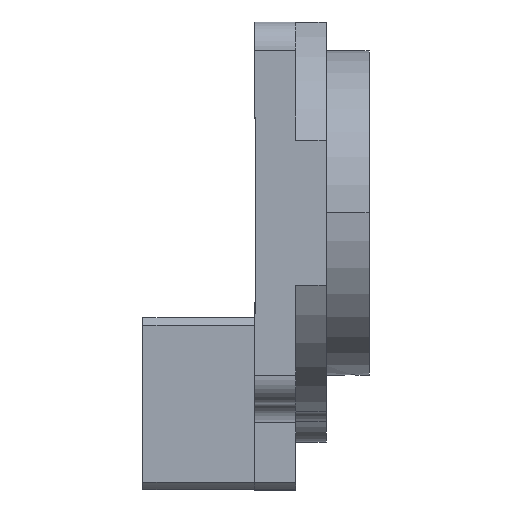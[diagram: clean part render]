
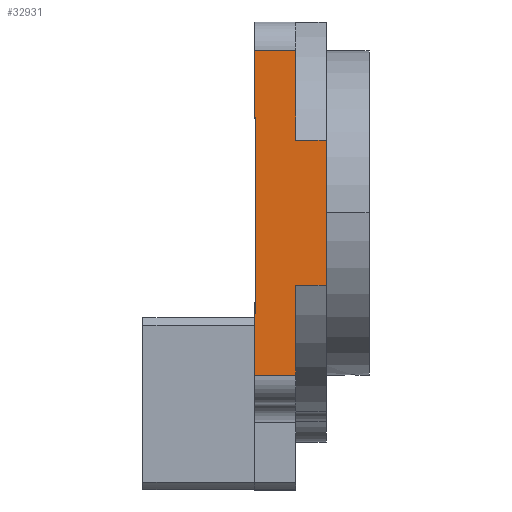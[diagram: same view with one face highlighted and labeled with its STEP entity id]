
A CAD part, top view. The second image highlights one B-rep face of the part: STEP entity #32931.
In plain terms, the highlighted planar face has unit normal (0, 0, 1).
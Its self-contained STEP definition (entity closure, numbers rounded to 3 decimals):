
#300 = LINE ( 'NONE', #29184, #39284 ) ;
#422 = CARTESIAN_POINT ( 'NONE',  ( 21.504, 185., 100. ) ) ;
#596 = VECTOR ( 'NONE', #32649, 1000. ) ;
#1118 = VERTEX_POINT ( 'NONE', #6064 ) ;
#1456 = DIRECTION ( 'NONE',  ( -1., 0., 0. ) ) ;
#1730 = DIRECTION ( 'NONE',  ( 0., -1., 0. ) ) ;
#1990 = VERTEX_POINT ( 'NONE', #28826 ) ;
#2182 = VECTOR ( 'NONE', #30848, 1000. ) ;
#2751 = DIRECTION ( 'NONE',  ( -1., 0., 0. ) ) ;
#3930 = VERTEX_POINT ( 'NONE', #43328 ) ;
#4076 = DIRECTION ( 'NONE',  ( 0., -1., 0. ) ) ;
#4094 = CARTESIAN_POINT ( 'NONE',  ( 21.504, 185., 100. ) ) ;
#4218 = VERTEX_POINT ( 'NONE', #36563 ) ;
#4985 = ORIENTED_EDGE ( 'NONE', *, *, #18725, .F. ) ;
#5370 = CARTESIAN_POINT ( 'NONE',  ( 0.504, 47., 100. ) ) ;
#5448 = VERTEX_POINT ( 'NONE', #47264 ) ;
#5970 = EDGE_CURVE ( 'NONE', #1118, #25602, #20755, .T. ) ;
#5991 = LINE ( 'NONE', #45709, #26102 ) ;
#6064 = CARTESIAN_POINT ( 'NONE',  ( 0.004, 185., 100. ) ) ;
#6886 = LINE ( 'NONE', #10901, #45764 ) ;
#7078 = DIRECTION ( 'NONE',  ( 0., -1., 0. ) ) ;
#7135 = CARTESIAN_POINT ( 'NONE',  ( 37.504, 185., 100. ) ) ;
#7523 = EDGE_CURVE ( 'NONE', #32208, #4218, #28178, .T. ) ;
#7661 = EDGE_CURVE ( 'NONE', #17731, #3930, #20574, .T. ) ;
#8062 = EDGE_CURVE ( 'NONE', #43176, #47088, #300, .T. ) ;
#8211 = CARTESIAN_POINT ( 'NONE',  ( 0.004, 15., 100. ) ) ;
#9107 = ORIENTED_EDGE ( 'NONE', *, *, #7661, .F. ) ;
#10495 = DIRECTION ( 'NONE',  ( -1., 0., 0. ) ) ;
#10901 = CARTESIAN_POINT ( 'NONE',  ( 21.504, 185., 100. ) ) ;
#10959 = DIRECTION ( 'NONE',  ( 0., -1., 0. ) ) ;
#11629 = ORIENTED_EDGE ( 'NONE', *, *, #38243, .F. ) ;
#12454 = EDGE_CURVE ( 'NONE', #1990, #17731, #32314, .T. ) ;
#12624 = PLANE ( 'NONE',  #30467 ) ;
#13787 = LINE ( 'NONE', #39073, #22658 ) ;
#14426 = EDGE_CURVE ( 'NONE', #21572, #4218, #44912, .T. ) ;
#14897 = VECTOR ( 'NONE', #19308, 1000. ) ;
#15140 = ORIENTED_EDGE ( 'NONE', *, *, #26222, .T. ) ;
#15535 = CARTESIAN_POINT ( 'NONE',  ( 0.504, 47., 100. ) ) ;
#16038 = VECTOR ( 'NONE', #10495, 1000. ) ;
#16395 = DIRECTION ( 'NONE',  ( 0., 1., 0. ) ) ;
#17136 = EDGE_CURVE ( 'NONE', #5448, #44326, #48058, .T. ) ;
#17731 = VERTEX_POINT ( 'NONE', #23410 ) ;
#18471 = FACE_OUTER_BOUND ( 'NONE', #48665, .T. ) ;
#18682 = ORIENTED_EDGE ( 'NONE', *, *, #5970, .F. ) ;
#18725 = EDGE_CURVE ( 'NONE', #3930, #5448, #13787, .T. ) ;
#18795 = ORIENTED_EDGE ( 'NONE', *, *, #14426, .T. ) ;
#19249 = VECTOR ( 'NONE', #4076, 1000. ) ;
#19308 = DIRECTION ( 'NONE',  ( -1., 0., 0. ) ) ;
#19342 = ORIENTED_EDGE ( 'NONE', *, *, #17136, .F. ) ;
#20133 = ORIENTED_EDGE ( 'NONE', *, *, #23451, .F. ) ;
#20574 = LINE ( 'NONE', #7135, #43485 ) ;
#20755 = LINE ( 'NONE', #36069, #596 ) ;
#21572 = VERTEX_POINT ( 'NONE', #5370 ) ;
#22658 = VECTOR ( 'NONE', #1456, 1000. ) ;
#23410 = CARTESIAN_POINT ( 'NONE',  ( 37.504, 138.066, 100. ) ) ;
#23451 = EDGE_CURVE ( 'NONE', #47088, #1118, #5991, .T. ) ;
#24117 = ORIENTED_EDGE ( 'NONE', *, *, #7523, .F. ) ;
#25162 = CARTESIAN_POINT ( 'NONE',  ( 0.004, 185., 100. ) ) ;
#25602 = VERTEX_POINT ( 'NONE', #4094 ) ;
#26102 = VECTOR ( 'NONE', #48667, 1000. ) ;
#26222 = EDGE_CURVE ( 'NONE', #43176, #21572, #29209, .T. ) ;
#26372 = CARTESIAN_POINT ( 'NONE',  ( 0.504, 150., 100. ) ) ;
#27059 = CARTESIAN_POINT ( 'NONE',  ( 0.004, 138.066, 100. ) ) ;
#28178 = LINE ( 'NONE', #25162, #46996 ) ;
#28826 = CARTESIAN_POINT ( 'NONE',  ( 21.504, 138.066, 100. ) ) ;
#28893 = DIRECTION ( 'NONE',  ( 0., 1., 0. ) ) ;
#29184 = CARTESIAN_POINT ( 'NONE',  ( 0.004, 150., 100. ) ) ;
#29209 = LINE ( 'NONE', #39337, #38026 ) ;
#30065 = CARTESIAN_POINT ( 'NONE',  ( 21.504, 15., 100. ) ) ;
#30467 = AXIS2_PLACEMENT_3D ( 'NONE', #35153, #38936, #16395 ) ;
#30848 = DIRECTION ( 'NONE',  ( 1., 0., 0. ) ) ;
#32208 = VERTEX_POINT ( 'NONE', #8211 ) ;
#32314 = LINE ( 'NONE', #27059, #2182 ) ;
#32649 = DIRECTION ( 'NONE',  ( 1., 0., 0. ) ) ;
#32931 = ADVANCED_FACE ( 'NONE', ( #18471 ), #12624, .F. ) ;
#33038 = CARTESIAN_POINT ( 'NONE',  ( 0.004, 15., 100. ) ) ;
#34794 = ORIENTED_EDGE ( 'NONE', *, *, #8062, .F. ) ;
#35153 = CARTESIAN_POINT ( 'NONE',  ( 0.004, 185., 100. ) ) ;
#36046 = LINE ( 'NONE', #33038, #16038 ) ;
#36069 = CARTESIAN_POINT ( 'NONE',  ( 0.004, 185., 100. ) ) ;
#36467 = ORIENTED_EDGE ( 'NONE', *, *, #44934, .F. ) ;
#36563 = CARTESIAN_POINT ( 'NONE',  ( 0.004, 47., 100. ) ) ;
#38026 = VECTOR ( 'NONE', #1730, 1000. ) ;
#38243 = EDGE_CURVE ( 'NONE', #44326, #32208, #36046, .T. ) ;
#38936 = DIRECTION ( 'NONE',  ( 0., 0., -1. ) ) ;
#39073 = CARTESIAN_POINT ( 'NONE',  ( 0.004, 61.934, 100. ) ) ;
#39284 = VECTOR ( 'NONE', #2751, 1000. ) ;
#39337 = CARTESIAN_POINT ( 'NONE',  ( 0.504, 160., 100. ) ) ;
#41081 = ORIENTED_EDGE ( 'NONE', *, *, #12454, .F. ) ;
#43176 = VERTEX_POINT ( 'NONE', #26372 ) ;
#43328 = CARTESIAN_POINT ( 'NONE',  ( 37.504, 61.934, 100. ) ) ;
#43485 = VECTOR ( 'NONE', #10959, 1000. ) ;
#44326 = VERTEX_POINT ( 'NONE', #30065 ) ;
#44912 = LINE ( 'NONE', #15535, #14897 ) ;
#44934 = EDGE_CURVE ( 'NONE', #25602, #1990, #6886, .T. ) ;
#45061 = CARTESIAN_POINT ( 'NONE',  ( 0.004, 150., 100. ) ) ;
#45709 = CARTESIAN_POINT ( 'NONE',  ( 0.004, 185., 100. ) ) ;
#45764 = VECTOR ( 'NONE', #7078, 1000. ) ;
#46996 = VECTOR ( 'NONE', #28893, 1000. ) ;
#47088 = VERTEX_POINT ( 'NONE', #45061 ) ;
#47264 = CARTESIAN_POINT ( 'NONE',  ( 21.504, 61.934, 100. ) ) ;
#48058 = LINE ( 'NONE', #422, #19249 ) ;
#48665 = EDGE_LOOP ( 'NONE', ( #20133, #34794, #15140, #18795, #24117, #11629, #19342, #4985, #9107, #41081, #36467, #18682 ) ) ;
#48667 = DIRECTION ( 'NONE',  ( 0., 1., 0. ) ) ;
